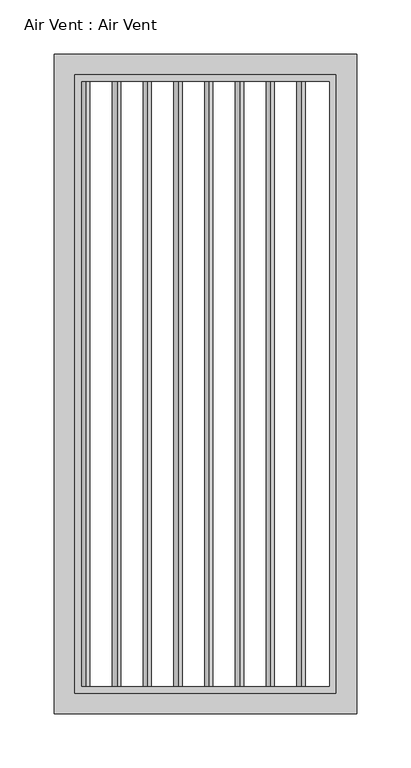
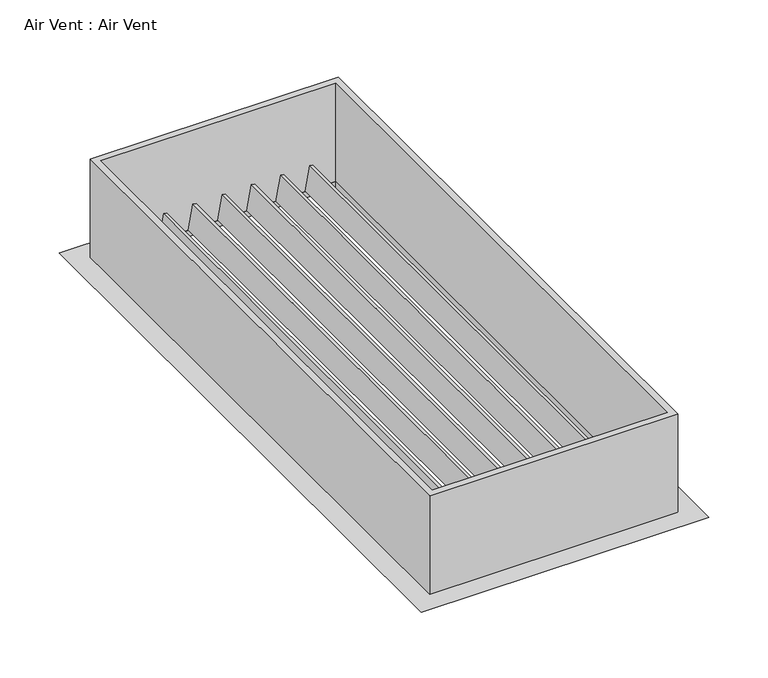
"""IFC4 building model written with IfcOpenShell, lengths in millimetres: proxy geometry, Air Vent : Air Vent."""

from ifc_helpers import new_model, si_unit, frame, origin, place, context, project, spatial, polyline, outline, extrude, faceted_brep, source, transform, mapped, element, save


def air_vent_air_vent_ae41c83b(model_context):
    return source(origin(), model_context, "Body", "SolidModel", [
        extrude(outline(polyline([(0.0, -3.175), (0.0, 0.0), (558.8, 0.0), (558.8, -3.175), (0.0, -3.175)])), frame((-85.870372, -279.4, 2438.951333), z_axis=(0.1736481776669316, 0.0, 0.9848077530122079), x_axis=(0.0, 1.0, 0.0)), (0.0, 0.0, 1.0), 25.4),
        extrude(outline(polyline([(0.0, -3.175), (0.0, 0.0), (558.8, 0.0), (558.8, -3.175), (0.0, -3.175)])), frame((-57.4407441, -279.4, 2438.951333), z_axis=(0.1736481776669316, 0.0, 0.9848077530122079), x_axis=(0.0, 1.0, 0.0)), (0.0, 0.0, 1.0), 25.4),
        extrude(outline(polyline([(0.0, -3.175), (0.0, 0.0), (558.8, 0.0), (558.8, -3.175), (0.0, -3.175)])), frame((-29.0111161, -279.4, 2438.951333), z_axis=(0.1736481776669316, 0.0, 0.9848077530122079), x_axis=(0.0, 1.0, 0.0)), (0.0, 0.0, 1.0), 25.4),
        extrude(outline(polyline([(0.0, -3.175), (0.0, 0.0), (558.8, 0.0), (558.8, -3.175), (0.0, -3.175)])), frame((-0.5814882, -279.4, 2438.951333), z_axis=(0.1736481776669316, 0.0, 0.9848077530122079), x_axis=(0.0, 1.0, 0.0)), (0.0, 0.0, 1.0), 25.4),
        extrude(outline(polyline([(0.0, -3.175), (0.0, 0.0), (558.8, 0.0), (558.8, -3.175), (0.0, -3.175)])), frame((27.8481398, -279.4, 2438.951333), z_axis=(0.1736481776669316, 0.0, 0.9848077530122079), x_axis=(0.0, 1.0, 0.0)), (0.0, 0.0, 1.0), 25.4),
        extrude(outline(polyline([(0.0, -3.1750001), (0.0, 0.0), (558.8, 0.0), (558.8, -3.1750001), (0.0, -3.1750001)])), frame((56.2777677, -279.4, 2438.951333), z_axis=(0.1736481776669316, 0.0, 0.9848077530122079), x_axis=(0.0, 1.0, 0.0)), (0.0, 0.0, 1.0), 25.4),
        extrude(outline(polyline([(0.0, -3.175), (0.0, 0.0), (558.8, 0.0), (558.8, -3.175), (0.0, -3.175)])), frame((84.7073957, -279.4, 2438.951333), z_axis=(0.1736481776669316, 0.0, 0.9848077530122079), x_axis=(0.0, 1.0, 0.0)), (0.0, 0.0, 1.0), 25.4),
        extrude(outline(polyline([(0.0, -3.175), (0.0, 0.0), (558.8, 0.0), (558.8, -3.175), (0.0, -3.175)])), frame((-114.3, -279.4, 2438.951333), z_axis=(0.1736481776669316, 0.0, 0.9848077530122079), x_axis=(0.0, 1.0, 0.0)), (0.0, 0.0, 1.0), 25.4),
        faceted_brep([(114.3, 279.4, 2438.4), (114.3, 279.4, 2432.05), (114.3, -279.4, 2432.05), (114.3, -279.4, 2438.4), (-114.3, -279.4, 2432.05), (-114.3, -279.4, 2438.4), (-114.3, 279.4, 2432.05), (-114.3, 279.4, 2438.4), (127.0, -292.1, 2432.05), (-127.0, -292.1, 2432.05), (-127.0, 292.1, 2432.05), (127.0, 292.1, 2432.05), (139.7, 304.8, 2438.4), (-139.7, 304.8, 2438.4), (-139.7, -304.8, 2438.4), (139.7, -304.8, 2438.4)], [[[0, 1, 2, 3]], [[3, 2, 4, 5]], [[5, 4, 6, 7]], [[8, 9, 10, 11], [1, 6, 4, 2]], [[12, 13, 14, 15], [3, 5, 7, 0]], [[7, 6, 1, 0]], [[11, 12, 15, 8]], [[8, 15, 14, 9]], [[9, 14, 13, 10]], [[10, 13, 12, 11]]]),
        extrude(outline(polyline([(120.65, 285.75), (120.65, -285.75), (-120.65, -285.75), (-120.65, 285.75), (120.65, 285.75)]), holes=[polyline([(114.3, 279.4), (-114.3, 279.4), (-114.3, -279.4), (114.3, -279.4), (114.3, 279.4)])]), frame((0.0, 0.0, 2438.4), z_axis=(0.0, 0.0, 1.0), x_axis=(1.0, 0.0, 0.0)), (0.0, 0.0, 1.0), 101.6),
    ])


if __name__ == "__main__":
    model = new_model("IFC4")
    model_context = context("Model", 3, world=origin())
    ifc_project = project(units=[si_unit("LENGTHUNIT", "METRE", prefix="MILLI")], contexts=[model_context])
    site = spatial("IfcSite", under=ifc_project)
    building = spatial("IfcBuilding", under=site)
    placement = place(None, origin())
    air_vent_air_vent_shape = air_vent_air_vent_ae41c83b(model_context)
    element("IfcBuildingElementProxy", 1, Name="Air Vent : Air Vent", ObjectType="Air Vent : Air Vent", at=placement, inside=building, context=model_context, shape_type="MappedRepresentation", body=[
        mapped(air_vent_air_vent_shape, transform((0.0, 0.0, 0.0), x_axis=(1.0, 0.0, 0.0), y_axis=(0.0, 1.0, 0.0), z_axis=(0.0, 0.0, 1.0))),
    ])
    save(model, "model.ifc")
